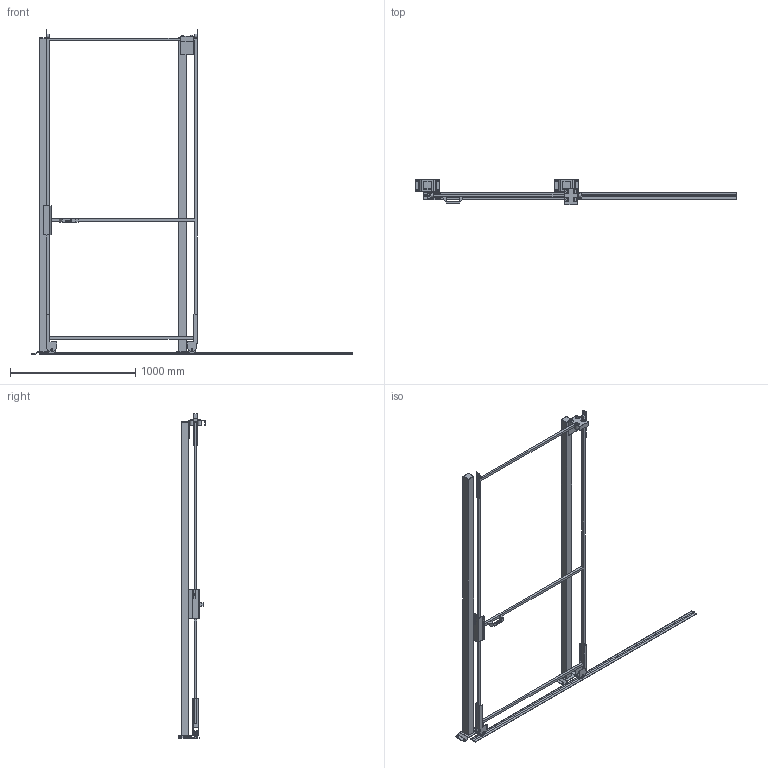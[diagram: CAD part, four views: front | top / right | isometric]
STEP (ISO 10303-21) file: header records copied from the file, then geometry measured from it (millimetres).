
FILE_DESCRIPTION(/* description */ (''),/* implementation_level */ '2;1');
FILE_NAME(/* name */ 'C:\SafeGuarding\ELABORATI\Drawing5_2025-05-05-13-49-58.stp',/* time_stamp */ '2025-05-05T13:50:02+02:00',/* author */ ('admin'),/* organization */ (''),/* preprocessor_version */ 'ST-DEVELOPER v18.1',/* originating_system */ 'AutoCAD Mechanical',/* authorisation */ '');
FILE_SCHEMA (('AUTOMOTIVE_DESIGN { 1 0 10303 214 3 1 1 }'));
Length unit declared in the file: millimetre
Products named in the file (3): Product; VFPA.REPE2012002400; P_VFMA.V260SDU.2520
Assembly tree (3 placements, depth 2):
  Product
    VFPA.REPE2012002400
    P_VFMA.V260SDU.2520  x2
Bounding box: 2561.01 x 210.01 x 2590 mm (x, y, z)
Volume: 23696482.1 mm3; surface area: 3033044.1 mm2
Topology: 29 solids, 40 shells, 321 faces, 1043 edges, 983 vertices
Faces by surface type: plane 275, cylinder 40, cone 4, sphere 2
Full cylindrical faces by diameter (mm): 9 x4, 11 x8, 13 x4, 18 x4, 30 x2, 36 x4, 58 x4
Entity records: 10664 total; most frequent: CARTESIAN_POINT 2295, DIRECTION 1623, ORIENTED_EDGE 1478, EDGE_CURVE 788, LINE 725, VECTOR 725, VERTEX_POINT 566, AXIS2_PLACEMENT_3D 449
